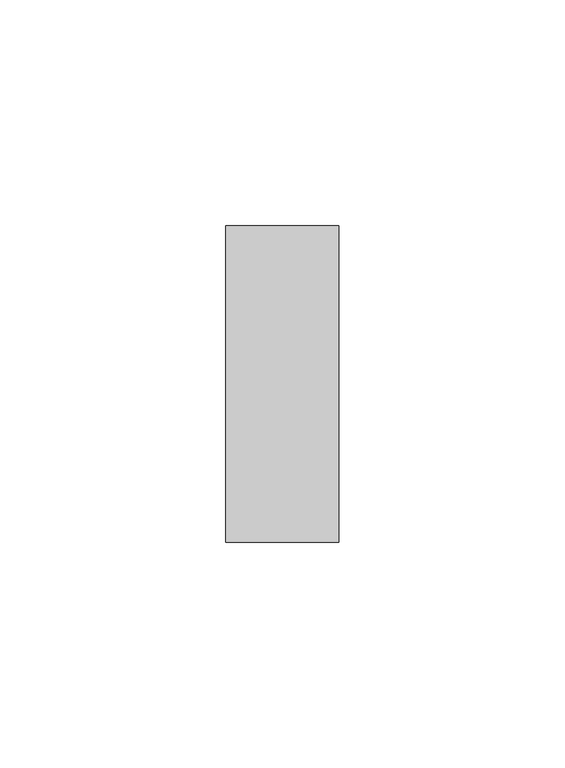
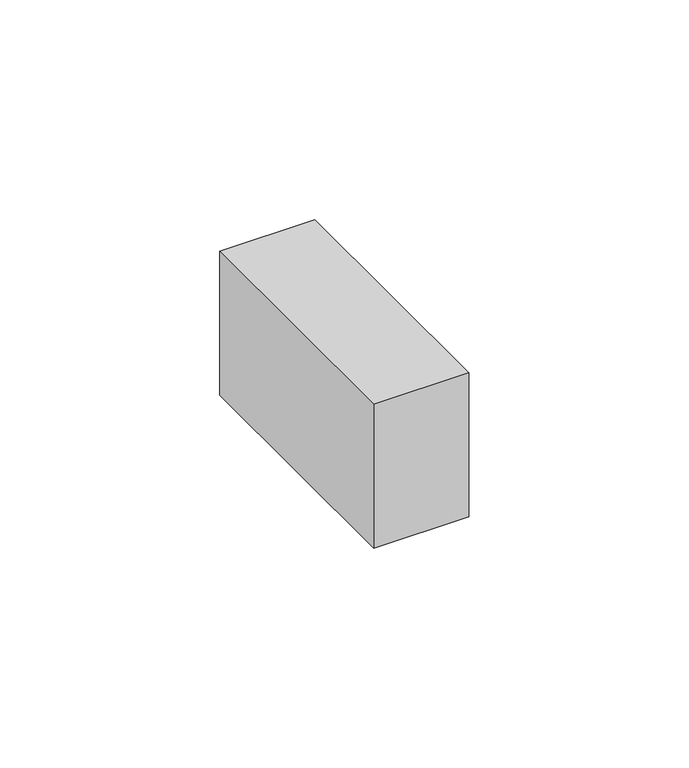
"""IFC4 building model written with IfcOpenShell, lengths in millimetres: duct fitting geometry, КНС_Заглушка_DKC : Стандартное."""

from ifc_helpers import new_model, si_unit, frame, origin, place, context, project, spatial, polyline, outline, extrude, source, transform, mapped, element, save


def duct_fitting_3eee8709(model_context):
    return source(origin(), model_context, "Body", "SweptSolid", [
        extrude(outline(polyline([(0.0, -35.0), (0.0, 35.0), (25.0, 35.0), (25.0, -35.0), (0.0, -35.0)])), frame((0.0, 0.0, -20.0), z_axis=(0.0, 0.0, 1.0), x_axis=(1.0, 0.0, 0.0)), (0.0, 0.0, 1.0), 40.0),
    ])


if __name__ == "__main__":
    model = new_model("IFC4")
    model_context = context("Model", 3, world=origin())
    ifc_project = project(units=[si_unit("LENGTHUNIT", "METRE", prefix="MILLI")], contexts=[model_context])
    site = spatial("IfcSite", under=ifc_project)
    building = spatial("IfcBuilding", under=site)
    placement = place(None, origin())
    duct_fitting_shape = duct_fitting_3eee8709(model_context)
    element("IfcDuctFitting", 1, ObjectType="КНС_Заглушка_DKC : Стандартное", at=placement, inside=building, context=model_context, shape_type="MappedRepresentation", body=[
        mapped(duct_fitting_shape, transform((0.0, 0.0, 0.0), x_axis=(1.0, 0.0, 0.0), y_axis=(0.0, 1.0, 0.0), z_axis=(0.0, 0.0, 1.0))),
    ])
    save(model, "model.ifc")
